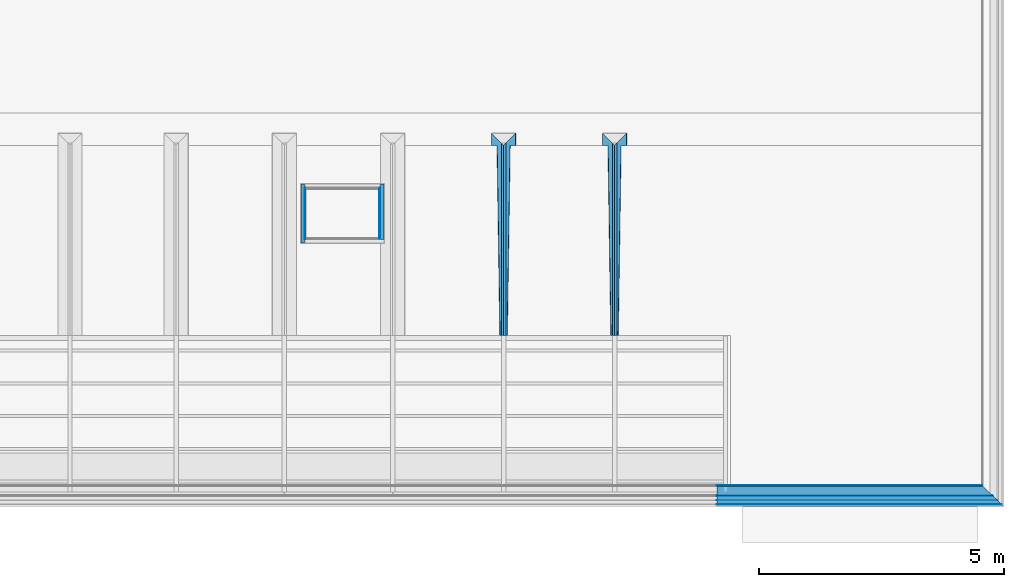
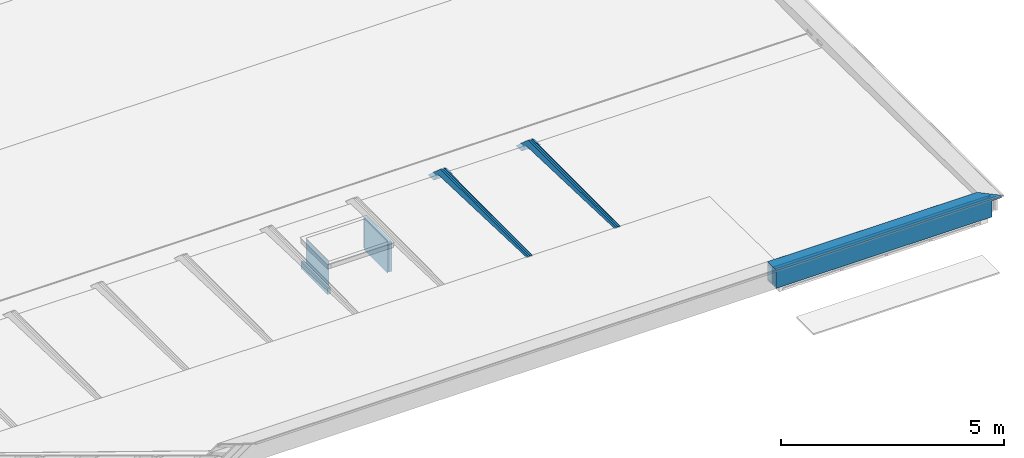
# One storey, part 11 of 16: 25 building element parts, 7 elements without a shape of their own.
"""IFC2X3 building model written with IfcOpenShell, lengths in millimetres."""

from ifc_helpers import new_model, entity, si_unit, converted_unit, derived_unit, money_unit, direction, frame, origin_with_axes, place, context, subcontext, project, spatial, faceted_brep, material, type_object, element, aggregate, save


model = new_model("IFC2X3")

# Units and contexts
model_context = context("Model", 3, precision=0.01, world=origin_with_axes(), true_north=direction((0.0, 1.0)))
body_context = subcontext(model_context, "Body", "Model", "MODEL_VIEW")
ifc_project = project(units=[si_unit("LENGTHUNIT", "METRE", prefix="MILLI"), si_unit("AREAUNIT", "SQUARE_METRE"), si_unit("VOLUMEUNIT", "CUBIC_METRE"), converted_unit("PLANEANGLEUNIT", "DEGREE", entity("IfcPlaneAngleMeasure", 0.0174532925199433), si_unit("PLANEANGLEUNIT", "RADIAN"), dimensions=[0, 0, 0, 0, 0, 0, 0]), money_unit("EUR"), converted_unit("TIMEUNIT", "Year", entity("IfcTimeMeasure", 31556926.0), si_unit("TIMEUNIT", "SECOND"), dimensions=[0, 0, 1, 0, 0, 0, 0]), si_unit("MASSUNIT", "GRAM", prefix="KILO"), si_unit("THERMODYNAMICTEMPERATUREUNIT", "DEGREE_CELSIUS"), si_unit("LUMINOUSINTENSITYUNIT", "LUMEN"), si_unit("ENERGYUNIT", "JOULE", prefix="MEGA"), derived_unit("THERMALCONDUCTANCEUNIT", [(si_unit("POWERUNIT", "WATT"), 1), (si_unit("LENGTHUNIT", "METRE"), -1), (si_unit("THERMODYNAMICTEMPERATUREUNIT", "KELVIN"), -1)]), derived_unit("SPECIFICHEATCAPACITYUNIT", [(si_unit("ENERGYUNIT", "JOULE"), 1), (si_unit("MASSUNIT", "GRAM", prefix="KILO"), -1), (si_unit("THERMODYNAMICTEMPERATUREUNIT", "KELVIN"), -1)]), derived_unit("MASSDENSITYUNIT", [(si_unit("MASSUNIT", "GRAM", prefix="KILO"), 1), (si_unit("VOLUMEUNIT", "CUBIC_METRE"), -1)])], contexts=[model_context])

# Site, building, storey
site_placement = place(None, origin_with_axes())
site = spatial("IfcSite", under=ifc_project, at=site_placement, Name="Site", CompositionType="ELEMENT")
building_placement = place(site_placement, origin_with_axes())
building = spatial("IfcBuilding", under=site, at=building_placement, Name="Naam gebouw", CompositionType="ELEMENT")
storey_placement = place(building_placement, frame((0.0, 0.0, 7820.0), z_axis=(0.0, 0.0, 1.0), x_axis=(1.0, 0.0, 0.0)))
storey = spatial("IfcBuildingStorey", under=building, at=storey_placement, Name="2e dakoverzicht", CompositionType="ELEMENT", Elevation=7820.0)

# Beam, building element parts
beam_type_1 = type_object("IfcBeamType", Name="47 Isoniq M stucwerk 428 x 509", PredefinedType="BEAM")
beam_1_placement = place(storey_placement, frame((29899.99999999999, 3600.000000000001, 480.0000000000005), z_axis=(0.0, 0.0, 1.0), x_axis=(0.0, 1.0, 0.0)))
beam_1 = element("IfcBeam", 1, at=beam_1_placement, inside=storey, type_object=beam_type_1, Name="28_Balk-x", ObjectType="BEAM")
ifc_material_1 = material(Name="STO pleisterlaag")
building_element_part_1_placement = place(beam_1_placement, origin_with_axes())
building_element_part_1 = element("IfcBuildingElementPart", 2, at=building_element_part_1_placement, material=ifc_material_1, Name="STO pleisterlaag", context=body_context, shape_type="Brep", body=[
    faceted_brep([(-176.0000000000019, -248.7617982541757, -39.99999999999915), (-176.0000000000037, -248.7617982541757, 3.000000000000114), (-176.0000000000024, 5576.000960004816, 3.000000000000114), (-176.0000000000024, 5576.000960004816, -480.0000000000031), (-176.0000000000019, 0.0, -480.0000000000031), (-176.0000000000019, 0.0, -39.99999999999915), (-172.999998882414, -245.6567452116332, -39.99999999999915), (-172.999998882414, -245.6567452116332, 3.000000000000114), (-172.9999988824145, 5576.000960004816, 3.000000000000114), (-172.9999988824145, 5576.000960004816, -480.0000000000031), (-172.999996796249, 0.0, -480.0000000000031), (-172.999996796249, 0.0, -39.99999999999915), (-172.999996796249, -231.9999967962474, -39.99999999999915)], [[[0, 1, 2, 3, 4, 5]], [[0, 6, 7, 1]], [[2, 1, 7, 8]], [[8, 9, 3, 2]], [[10, 4, 3, 9]], [[10, 11, 5, 4]], [[6, 0, 5, 11, 12]], [[6, 12, 11, 10, 9, 8, 7]]]),
])
ifc_material_2 = material(Name="STO lijmlaag")
building_element_part_2_placement = place(beam_1_placement, origin_with_axes())
building_element_part_2 = element("IfcBuildingElementPart", 3, at=building_element_part_2_placement, material=ifc_material_2, Name="STO lijmlaag", context=body_context, shape_type="Brep", body=[
    faceted_brep([(-87.99999850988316, 0.0, -480.0000000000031), (-87.99999850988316, 0.0, -39.99999999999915), (-87.99999850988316, -157.680277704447, -39.99999999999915), (-88.00000138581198, -157.680277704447, -6.999998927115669), (-88.00000138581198, 5576.000960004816, -6.999998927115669), (-88.00000138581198, 5576.000960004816, -480.0000000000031), (-83.99999776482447, 0.0, -480.0000000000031), (-83.99999776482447, 0.0, -39.99999999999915), (-83.99999776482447, -153.5402119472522, -39.99999999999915), (-84.00000469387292, -153.5402119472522, -6.999998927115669), (-84.00000469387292, 5576.000960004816, -6.999998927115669), (-84.00000469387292, 5576.000960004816, -480.0000000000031)], [[[0, 1, 2, 3, 4, 5]], [[6, 7, 1, 0]], [[8, 2, 1, 7]], [[2, 8, 9, 3]], [[9, 10, 4, 3]], [[11, 5, 4, 10]], [[6, 0, 5, 11]], [[7, 6, 11, 10, 9, 8]]]),
])
ifc_material_3 = material(Name="STO weefsellaag")
building_element_part_3_placement = place(beam_1_placement, origin_with_axes())
building_element_part_3 = element("IfcBuildingElementPart", 4, at=building_element_part_3_placement, material=ifc_material_3, Name="STO weefsellaag", context=body_context, shape_type="Brep", body=[
    faceted_brep([(-173.0000000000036, -245.6567463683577, -39.99999999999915), (-173.0000000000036, -245.6567463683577, 3.000000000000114), (-173.0000000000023, 5576.000960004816, 3.000000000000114), (-173.0000000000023, 5576.000960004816, -480.0000000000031), (-172.9999985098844, 0.0, -480.0000000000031), (-172.9999985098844, 0.0, -39.99999999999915), (-172.9999985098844, -231.9999985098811, -39.99999999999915), (-168.0000005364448, -240.481660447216, -39.99999999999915), (-168.0000005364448, -240.481660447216, 3.000000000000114), (-168.0000005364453, 5576.000960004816, 3.000000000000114), (-168.0000005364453, 5576.000960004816, -480.0000000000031), (-167.9999997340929, 0.0, -480.0000000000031), (-167.9999997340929, 0.0, -39.99999999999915), (-167.9999997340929, -226.9999962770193, -39.99999999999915)], [[[0, 1, 2, 3, 4, 5, 6]], [[0, 7, 8, 1]], [[2, 1, 8, 9]], [[9, 10, 3, 2]], [[11, 4, 3, 10]], [[11, 12, 5, 4]], [[7, 0, 6, 5, 12, 13]], [[7, 13, 12, 11, 10, 9, 8]]]),
])
ifc_material_4 = material(Name="Cementgebonden plaatmateriaal")
building_element_part_4_placement = place(beam_1_placement, origin_with_axes())
building_element_part_4 = element("IfcBuildingElementPart", 5, at=building_element_part_4_placement, material=ifc_material_4, Name="Cementgebonden plaatmateriaal", context=body_context, shape_type="Brep", body=[
    faceted_brep([(0.0, -66.59875428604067, -480.0000000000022), (0.0, 5576.000960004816, -480.0000000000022), (14.99999967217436, 5576.000960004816, -480.0000000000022), (14.99999967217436, -51.07349519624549, -480.0000000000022), (0.0, -66.59875428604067, -6.999999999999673), (0.0, 5576.000960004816, -6.999999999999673), (14.99999967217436, 5576.000960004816, -6.999999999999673), (14.99999967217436, 5576.000960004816, -9.999998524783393), (14.99999967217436, -51.07349519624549, -9.999998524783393), (14.99999967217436, -51.07349519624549, -6.999999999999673)], [[[0, 1, 2, 3]], [[4, 5, 1, 0]], [[2, 1, 5, 6, 7]], [[3, 2, 7, 8]], [[4, 0, 3, 8, 9]], [[9, 6, 5, 4]], [[8, 7, 6, 9]]]),
])
building_element_part_5_placement = place(beam_1_placement, origin_with_axes())
building_element_part_5 = element("IfcBuildingElementPart", 6, at=building_element_part_5_placement, material=ifc_material_2, Name="STO lijmlaag", context=body_context, shape_type="Brep", body=[
    faceted_brep([(-3.999999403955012, 0.0, -480.0000000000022), (-3.999999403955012, 0.0, -39.99999999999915), (-3.999999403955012, -70.73882041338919, -39.99999999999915), (-3.999997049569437, -70.73882041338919, -6.999999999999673), (-3.999997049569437, 5576.000960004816, -6.999999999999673), (-3.999997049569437, 5576.000960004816, -480.0000000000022), (-8.940723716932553e-07, 0.0, -480.0000000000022), (-8.940723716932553e-07, 0.0, -39.99999999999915), (-8.940723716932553e-07, -66.59875326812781, -39.99999999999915), (9.834755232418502e-07, -66.59875326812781, -6.999999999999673), (9.834750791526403e-07, 5576.000960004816, -6.999999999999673), (9.834755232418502e-07, 5576.000960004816, -480.0000000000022)], [[[0, 1, 2, 3, 4, 5]], [[6, 7, 1, 0]], [[8, 2, 1, 7]], [[2, 8, 9, 3]], [[9, 10, 4, 3]], [[5, 4, 10, 11]], [[6, 0, 5, 11]], [[7, 6, 11, 10, 9, 8]]]),
])
ifc_material_5 = material(Name="47 waterdichte laag - bitumen")
building_element_part_6_placement = place(beam_1_placement, origin_with_axes())
building_element_part_6 = element("IfcBuildingElementPart", 7, at=building_element_part_6_placement, material=ifc_material_5, Name="47 waterdichte laag - bitumen", context=body_context, shape_type="Brep", body=[
    faceted_brep([(216.9999972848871, 157.9999959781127, 14.40779045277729), (-188.1351611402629, -261.3218999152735, 28.48044654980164), (-210.657850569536, -284.6332730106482, 28.48044654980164), (-210.7348536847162, -284.7129725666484, 26.26365007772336), (214.0000036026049, 154.8949506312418, 11.51018216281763), (216.9999972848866, 5576.000960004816, 14.40779045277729), (-188.1351611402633, 5576.000960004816, 28.48044654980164), (-210.6578505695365, 5576.000960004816, 28.48044654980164), (-210.7348536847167, 5576.000960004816, 26.26365007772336), (214.0000036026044, 5576.000960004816, 11.51018216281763)], [[[0, 1, 2, 3, 4]], [[5, 6, 1, 0]], [[6, 7, 2, 1]], [[3, 2, 7, 8]], [[4, 3, 8, 9]], [[0, 4, 9, 5]], [[8, 7, 6, 5, 9]]]),
])
building_element_part_7_placement = place(beam_1_placement, origin_with_axes())
building_element_part_7 = element("IfcBuildingElementPart", 8, at=building_element_part_7_placement, material=ifc_material_5, Name="47 waterdichte laag - bitumen", context=body_context, shape_type="Brep", body=[
    faceted_brep([(213.9999999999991, 5576.000960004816, 11.51018437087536), (213.9999988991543, 5576.000960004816, -10.00000080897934), (213.9999988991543, 154.8949457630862, -10.00000080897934), (213.9999999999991, 154.8949469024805, 11.51018437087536), (216.9999999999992, 5576.000960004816, 14.4077885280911), (217.0000000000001, 5576.000960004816, -479.9999999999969), (214.0, 5576.000960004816, -479.9999999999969), (214.0, 154.8949469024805, -479.9999999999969), (217.0000000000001, 157.9999987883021, -479.9999999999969), (216.9999999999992, 157.9999987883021, 14.4077885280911)], [[[0, 1, 2, 3]], [[0, 4, 5, 6, 1]], [[1, 6, 7, 2]], [[3, 2, 7, 8, 9]], [[4, 0, 3, 9]], [[5, 4, 9, 8]], [[6, 5, 8, 7]]]),
])
ifc_material_6 = material(Name="Isolatie - STO EPS")
building_element_part_8_placement = place(beam_1_placement, origin_with_axes())
building_element_part_8 = element("IfcBuildingElementPart", 9, at=building_element_part_8_placement, material=ifc_material_6, Name="Isolatie - STO EPS", context=body_context, shape_type="Brep", body=[
    faceted_brep([(-168.0000000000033, -240.4816598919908, -39.99999999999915), (-168.0000021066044, -226.9999986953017, -39.99999999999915), (-167.9999995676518, 0.0, -39.99999999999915), (-87.9999988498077, 0.0, -39.99999999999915), (-87.9999988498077, -157.6802776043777, -39.99999999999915), (-168.0000000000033, -240.4816598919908, 3.000000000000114), (-168.0000000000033, 5576.000960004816, 3.000000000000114), (-168.0000000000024, 5576.000960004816, -480.0000000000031), (-167.9999995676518, 0.0, -480.0000000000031), (-87.9999988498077, 0.0, -480.0000000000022), (-88.00000000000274, 5576.000960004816, -480.0000000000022), (-88.00000138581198, 5576.000960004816, -6.999998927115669), (-88.00000138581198, -157.680277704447, -6.999998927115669), (-88.00000000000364, -157.6802762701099, 3.000000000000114), (-88.00000000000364, 5576.000960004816, 3.000000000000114)], [[[0, 1, 2, 3, 4]], [[2, 1, 0, 5, 6, 7, 8]], [[9, 3, 2, 8]], [[3, 9, 10, 11, 12, 4]], [[0, 4, 12, 13, 5]], [[13, 14, 6, 5]], [[10, 7, 6, 14, 11]], [[9, 8, 7, 10]], [[12, 11, 14, 13]]]),
])
ifc_material_7 = material(Name="Hout C")
building_element_part_9_placement = place(beam_1_placement, origin_with_axes())
building_element_part_9 = element("IfcBuildingElementPart", 10, at=building_element_part_9_placement, material=ifc_material_7, Name="Hout C", context=body_context, shape_type="Brep", body=[
    faceted_brep([(15.00000000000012, 5576.000960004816, -9.999999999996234), (15.00000000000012, 5576.000960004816, -47.99999999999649), (15.00000000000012, -51.07349485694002, -47.99999999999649), (15.00000000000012, -51.07349485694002, -9.999999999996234), (198.9999999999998, 5576.000960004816, -9.999999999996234), (198.9999999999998, 5576.000960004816, -47.99999999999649), (198.9999999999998, 139.3696874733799, -47.99999999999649), (198.9999999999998, 139.3696874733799, -9.999999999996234)], [[[0, 1, 2, 3]], [[0, 4, 5, 1]], [[1, 5, 6, 2]], [[3, 2, 6, 7]], [[4, 0, 3, 7]], [[5, 4, 7, 6]]]),
])
building_element_part_10_placement = place(beam_1_placement, origin_with_axes())
building_element_part_10 = element("IfcBuildingElementPart", 11, at=building_element_part_10_placement, material=ifc_material_6, Name="Isolatie - STO EPS", context=body_context, shape_type="Brep", body=[
    faceted_brep([(-84.00000000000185, 0.0, -480.0000000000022), (-84.00000000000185, 0.0, -39.99999999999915), (-84.00000000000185, -153.5402070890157, -39.99999999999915), (-84.00000000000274, -153.5402070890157, -6.999999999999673), (-84.00000000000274, 5576.000960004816, -6.999999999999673), (-84.00000000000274, 5576.000960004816, -480.0000000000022), (-4.00000000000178, 0.0, -480.0000000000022), (-4.00000000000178, 0.0, -39.99999999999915), (-3.999999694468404, -70.73882346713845, -39.99999999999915), (-4.000000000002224, -70.73882346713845, -6.999999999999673), (-4.000000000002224, 5576.000960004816, -6.999999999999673), (-4.000000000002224, 5576.000960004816, -480.0000000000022)], [[[0, 1, 2, 3, 4, 5]], [[6, 7, 1, 0]], [[8, 2, 1, 7]], [[2, 8, 9, 3]], [[9, 10, 4, 3]], [[10, 11, 5, 4]], [[6, 0, 5, 11]], [[7, 6, 11, 10, 9, 8]]]),
])
building_element_part_11_placement = place(beam_1_placement, origin_with_axes())
building_element_part_11 = element("IfcBuildingElementPart", 12, at=building_element_part_11_placement, material=ifc_material_7, Name="Hout C", context=body_context, shape_type="Brep", body=[
    faceted_brep([(15.00000000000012, 5576.000960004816, -441.9999999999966), (15.00000000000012, 5576.000960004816, -479.9999999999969), (15.00000000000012, -51.07349485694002, -479.9999999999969), (15.00000000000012, -51.07349485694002, -441.9999999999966), (198.9999999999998, 5576.000960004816, -441.9999999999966), (198.9999999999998, 5576.000960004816, -479.9999999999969), (198.9999999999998, 139.3696874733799, -479.9999999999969), (198.9999999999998, 139.3696874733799, -441.9999999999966)], [[[0, 1, 2, 3]], [[0, 4, 5, 1]], [[1, 5, 6, 2]], [[3, 2, 6, 7]], [[4, 0, 3, 7]], [[5, 4, 7, 6]]]),
])
ifc_material_8 = material(Name="Isolatie - Glaswol hard")
building_element_part_12_placement = place(beam_1_placement, origin_with_axes())
building_element_part_12 = element("IfcBuildingElementPart", 13, at=building_element_part_12_placement, material=ifc_material_8, Name="Isolatie - Glaswol hard", context=body_context, shape_type="Brep", body=[
    faceted_brep([(14.99999999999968, 5576.000960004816, -48.00000065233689), (15.00000000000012, 5576.000960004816, -441.9999992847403), (15.00000000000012, -51.07349485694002, -441.9999992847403), (15.00000000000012, -51.07349485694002, -48.00000065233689), (199.0000011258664, 5576.000960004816, -48.00000065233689), (199.0000011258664, 5576.000960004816, -441.9999992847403), (199.0000011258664, 139.3696886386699, -441.9999992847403), (199.0000011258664, 139.3696886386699, -48.00000065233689)], [[[0, 1, 2, 3]], [[0, 4, 5, 1]], [[1, 5, 6, 2]], [[3, 2, 6, 7]], [[4, 0, 3, 7]], [[5, 4, 7, 6]]]),
])
aggregate(beam_1, [building_element_part_1, building_element_part_2, building_element_part_3, building_element_part_4, building_element_part_5, building_element_part_6, building_element_part_7, building_element_part_8, building_element_part_9, building_element_part_10, building_element_part_11, building_element_part_12])

beam_type_2 = type_object("IfcBeamType", Name="47 IPE inpakken 250 x 203", PredefinedType="BEAM")
beam_2_placement = place(storey_placement, frame((22278.83250152, 6879.999999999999, 269.9999999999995), z_axis=(0.0, 0.0, 1.0), x_axis=(1.0, 0.0, 0.0)))
beam_2 = element("IfcBeam", 14, at=beam_2_placement, inside=storey, type_object=beam_type_2, Name="_Regenwaterafvoer-x", ObjectType="BEAM")
building_element_part_13_placement = place(beam_2_placement, origin_with_axes())
building_element_part_13 = element("IfcBuildingElementPart", 15, at=building_element_part_13_placement, material=ifc_material_5, Name="47 waterdichte laag - bitumen", context=body_context, shape_type="Brep", body=[
    faceted_brep([(33.04263990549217, 5.399650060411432e-05, 21.20000000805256), (91.24264203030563, 3880.000055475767, -37.00000001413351), (204.2426399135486, 3880.000055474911, -150.0000000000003), (204.2426399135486, 4134.242695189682, -150.0000000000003), (1.242640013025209, 3931.242695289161, 52.99999990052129), (1.242640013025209, 0.0, 52.99999990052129), (28.80000052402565, 5.399634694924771e-05, 21.20000000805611), (87.00000027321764, 3880.000055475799, -37.00000001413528), (199.9999981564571, 3880.000055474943, -150.0000000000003), (199.9999981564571, 4130.000053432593, -150.0000000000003), (-45.50000000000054, 3884.500055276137, 50.00000164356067), (-45.50000000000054, 3884.500055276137, 52.99999990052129), (2.34354757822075e-07, 3930.000055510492, 50.00000164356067), (-45.50000000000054, 0.0, 52.99999990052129), (-45.50000000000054, 0.0, 50.00000164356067), (2.34354757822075e-07, 0.0, 50.00000164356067)], [[[0, 1, 2, 3, 4, 5]], [[1, 0, 6, 7]], [[8, 2, 1, 7]], [[2, 8, 9, 3]], [[10, 11, 4, 3, 9, 12]], [[5, 4, 11, 13]], [[6, 0, 5, 13, 14, 15]], [[7, 6, 15, 12, 9, 8]], [[13, 11, 10, 14]], [[14, 10, 12, 15]]]),
])
ifc_material_9 = material(Name="Isolatie - Kunststof hard")
building_element_part_14_placement = place(beam_2_placement, origin_with_axes())
building_element_part_14 = element("IfcBuildingElementPart", 16, at=building_element_part_14_placement, material=ifc_material_9, Name="Isolatie - Kunststof hard", context=body_context, shape_type="Brep", body=[
    faceted_brep([(28.79999999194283, 5.399634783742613e-05, 21.20000000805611), (87.00000001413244, 3880.000055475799, -37.00000001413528), (199.9999999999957, 3880.000055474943, -150.0000000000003), (199.9999999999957, 4130.000055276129, -150.0000000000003), (0.0, 3930.000055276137, 50.00000000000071), (0.0, 0.0, 50.00000000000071), (-45.50000000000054, 5.399366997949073e-05, 21.20000000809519), (-45.50000000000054, 1413.333387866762, 0.0), (0.0, 1413.333387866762, 0.0), (0.0, 3880.000055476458, -37.00000001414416), (0.0, 3880.000055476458, -150.0000000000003), (0.0, 3930.000055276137, -150.0000000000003), (0.0, 3930.000055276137, 0.0), (-45.50000000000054, 3884.500055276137, 0.0), (-45.50000000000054, 3884.500055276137, 50.00000000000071), (-45.50000000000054, 0.0, 50.00000000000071)], [[[0, 1, 2, 3, 4, 5]], [[1, 0, 6, 7, 8, 9]], [[10, 2, 1, 9]], [[2, 10, 11, 3]], [[4, 3, 11, 12, 13, 14]], [[5, 4, 14, 15]], [[6, 0, 5, 15]], [[7, 6, 15, 14, 13]], [[8, 7, 13, 12]], [[9, 8, 12, 11, 10]]]),
])
aggregate(beam_2, [building_element_part_13, building_element_part_14])

beam_3_placement = place(storey_placement, frame((22187.83250152, 10810.00005527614, 269.9999999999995), z_axis=(0.0, 0.0, 1.0), x_axis=(-1.0, 0.0, 0.0)))
beam_3 = element("IfcBeam", 17, at=beam_3_placement, inside=storey, type_object=beam_type_2, Name="_Regenwaterafvoer-x", ObjectType="BEAM")
building_element_part_15_placement = place(beam_3_placement, origin_with_axes())
building_element_part_15 = element("IfcBuildingElementPart", 18, at=building_element_part_15_placement, material=ifc_material_5, Name="47 waterdichte laag - bitumen", context=body_context, shape_type="Brep", body=[
    faceted_brep([(33.0426399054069, 3930.000001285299, 21.20000000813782), (28.80000052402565, 3930.000001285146, 21.20000000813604), (2.34354757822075e-07, 3930.000055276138, 50.00000164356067), (-45.50000000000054, 3930.000055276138, 50.00000164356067), (-45.50000000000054, 3930.000055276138, 52.99999990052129), (1.242640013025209, 3930.000055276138, 52.99999990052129), (87.0000002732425, 49.99999979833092, -37.00000001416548), (91.24264203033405, 49.99999979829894, -37.00000001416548), (199.9999981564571, 49.99999979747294, -150.0000000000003), (199.9999981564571, -199.9999981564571, -150.0000000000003), (2.34354757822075e-07, -2.34354757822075e-07, 50.00000164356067), (-45.50000000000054, 45.50000000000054, 50.00000164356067), (-45.50000000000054, 45.50000000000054, 52.99999990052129), (1.242640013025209, -1.242640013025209, 52.99999990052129), (204.2426399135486, -204.2426399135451, -150.0000000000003), (204.2426399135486, 49.99999979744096, -150.0000000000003)], [[[0, 1, 2, 3, 4, 5]], [[6, 1, 0, 7]], [[6, 8, 9, 10, 2, 1]], [[11, 3, 2, 10]], [[12, 4, 3, 11]], [[13, 5, 4, 12]], [[7, 0, 5, 13, 14, 15]], [[8, 6, 7, 15]], [[8, 15, 14, 9]], [[13, 12, 11, 10, 9, 14]]]),
])
building_element_part_16_placement = place(beam_3_placement, origin_with_axes())
building_element_part_16 = element("IfcBuildingElementPart", 19, at=building_element_part_16_placement, material=ifc_material_9, Name="Isolatie - Kunststof hard", context=body_context, shape_type="Brep", body=[
    faceted_brep([(-45.50000000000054, 3930.000001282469, 21.20000000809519), (-45.50000000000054, 2516.666667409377, 0.0), (-45.50000000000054, 45.50000000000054, 0.0), (-45.50000000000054, 45.50000000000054, 50.00000000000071), (-45.50000000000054, 3930.000055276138, 50.00000000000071), (0.0, 2516.666667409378, 0.0), (28.79999999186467, 3930.000001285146, 21.20000000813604), (87.00000001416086, 49.99999979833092, -37.00000001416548), (0.0, 49.99999979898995, -37.00000001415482), (0.0, 0.0, 0.0), (0.0, 0.0, -150.0000000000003), (199.9999999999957, -199.9999999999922, -150.0000000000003), (0.0, 0.0, 50.00000000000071), (0.0, 3930.000055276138, 50.00000000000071), (199.9999999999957, 49.99999979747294, -150.0000000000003), (0.0, 49.99999979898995, -150.0000000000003)], [[[0, 1, 2, 3, 4]], [[5, 1, 0, 6, 7, 8]], [[1, 5, 9, 2]], [[10, 11, 12, 3, 2, 9]], [[12, 13, 4, 3]], [[6, 0, 4, 13]], [[7, 6, 13, 12, 11, 14]], [[15, 8, 7, 14]], [[8, 15, 10, 9, 5]], [[15, 14, 11, 10]]]),
])
aggregate(beam_3, [building_element_part_15, building_element_part_16])

beam_4_placement = place(storey_placement, frame((20012.1659630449, 6879.999999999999, 269.9999999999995), z_axis=(0.0, 0.0, 1.0), x_axis=(1.0, 0.0, 0.0)))
beam_4 = element("IfcBeam", 20, at=beam_4_placement, inside=storey, type_object=beam_type_2, Name="_Regenwaterafvoer-x", ObjectType="BEAM")
building_element_part_17_placement = place(beam_4_placement, origin_with_axes())
building_element_part_17 = element("IfcBuildingElementPart", 21, at=building_element_part_17_placement, material=ifc_material_5, Name="47 waterdichte laag - bitumen", context=body_context, shape_type="Brep", body=[
    faceted_brep([(33.04263990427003, 5.391482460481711e-05, 21.20000000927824), (91.24264203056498, 3880.000055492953, -37.00000001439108), (204.2426399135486, 3880.000055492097, -150.0000000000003), (204.2426399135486, 4134.242695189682, -150.0000000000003), (1.242640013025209, 3931.242695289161, 52.99999990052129), (1.242640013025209, 0.0, 52.99999990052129), (28.80000052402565, 5.391467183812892e-05, 21.20000000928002), (87.00000027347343, 3880.000055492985, -37.00000001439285), (199.9999981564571, 3880.000055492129, -150.0000000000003), (199.9999981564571, 4130.000053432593, -150.0000000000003), (-45.50000000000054, 3884.500055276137, 50.00000164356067), (-45.50000000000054, 3884.500055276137, 52.99999990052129), (2.34354757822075e-07, 3930.000055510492, 50.00000164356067), (-45.50000000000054, 0.0, 52.99999990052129), (-45.50000000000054, 0.0, 50.00000164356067), (2.34354757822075e-07, 0.0, 50.00000164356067)], [[[0, 1, 2, 3, 4, 5]], [[1, 0, 6, 7]], [[8, 2, 1, 7]], [[2, 8, 9, 3]], [[10, 11, 4, 3, 9, 12]], [[5, 4, 11, 13]], [[6, 0, 5, 13, 14, 15]], [[7, 6, 15, 12, 9, 8]], [[13, 11, 10, 14]], [[14, 10, 12, 15]]]),
])
building_element_part_18_placement = place(beam_4_placement, origin_with_axes())
building_element_part_18 = element("IfcBuildingElementPart", 22, at=building_element_part_18_placement, material=ifc_material_9, Name="Isolatie - Kunststof hard", context=body_context, shape_type="Brep", body=[
    faceted_brep([(28.79999999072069, 5.391467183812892e-05, 21.20000000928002), (87.00000001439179, 3880.000055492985, -37.00000001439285), (199.9999999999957, 3880.000055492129, -150.0000000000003), (199.9999999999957, 4130.000055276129, -150.0000000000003), (0.0, 3930.000055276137, 50.00000000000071), (0.0, 0.0, 50.00000000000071), (-45.50000000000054, 5.391199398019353e-05, 21.20000000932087), (-45.50000000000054, 1413.333387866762, 0.0), (0.0, 1413.333387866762, 0.0), (0.0, 3880.000055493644, -37.00000001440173), (0.0, 3880.000055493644, -150.0000000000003), (0.0, 3930.000055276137, -150.0000000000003), (0.0, 3930.000055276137, 0.0), (-45.50000000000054, 3884.500055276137, 0.0), (-45.50000000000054, 3884.500055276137, 50.00000000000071), (-45.50000000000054, 0.0, 50.00000000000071)], [[[0, 1, 2, 3, 4, 5]], [[1, 0, 6, 7, 8, 9]], [[10, 2, 1, 9]], [[2, 10, 11, 3]], [[4, 3, 11, 12, 13, 14]], [[5, 4, 14, 15]], [[6, 0, 5, 15]], [[7, 6, 15, 14, 13]], [[8, 7, 13, 12]], [[9, 8, 12, 11, 10]]]),
])
aggregate(beam_4, [building_element_part_17, building_element_part_18])

beam_5_placement = place(storey_placement, frame((19921.1659630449, 10810.00005527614, 269.9999999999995), z_axis=(0.0, 0.0, 1.0), x_axis=(-1.0, 0.0, 0.0)))
beam_5 = element("IfcBeam", 23, at=beam_5_placement, inside=storey, type_object=beam_type_2, Name="_Regenwaterafvoer-x", ObjectType="BEAM")
building_element_part_19_placement = place(beam_5_placement, origin_with_axes())
building_element_part_19 = element("IfcBuildingElementPart", 24, at=building_element_part_19_placement, material=ifc_material_5, Name="47 waterdichte laag - bitumen", context=body_context, shape_type="Brep", body=[
    faceted_brep([(33.04263990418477, 3930.000001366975, 21.20000000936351), (28.80000052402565, 3930.000001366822, 21.20000000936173), (2.34354757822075e-07, 3930.00005527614, 50.00000164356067), (-45.50000000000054, 3930.00005527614, 50.00000164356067), (-45.50000000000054, 3930.00005527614, 52.99999990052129), (1.242640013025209, 3930.00005527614, 52.99999990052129), (87.00000027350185, 49.99999978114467, -37.00000001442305), (91.24264203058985, 49.99999978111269, -37.00000001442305), (199.9999981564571, 49.99999978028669, -150.0000000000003), (199.9999981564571, -199.9999981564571, -150.0000000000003), (2.34354757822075e-07, -2.34354757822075e-07, 50.00000164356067), (-45.50000000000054, 45.50000000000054, 50.00000164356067), (-45.50000000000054, 45.50000000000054, 52.99999990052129), (1.242640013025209, -1.242640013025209, 52.99999990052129), (204.2426399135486, -204.2426399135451, -150.0000000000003), (204.2426399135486, 49.99999978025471, -150.0000000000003)], [[[0, 1, 2, 3, 4, 5]], [[6, 1, 0, 7]], [[6, 8, 9, 10, 2, 1]], [[11, 3, 2, 10]], [[12, 4, 3, 11]], [[13, 5, 4, 12]], [[7, 0, 5, 13, 14, 15]], [[8, 6, 7, 15]], [[8, 15, 14, 9]], [[13, 12, 11, 10, 9, 14]]]),
])
building_element_part_20_placement = place(beam_5_placement, origin_with_axes())
building_element_part_20 = element("IfcBuildingElementPart", 25, at=building_element_part_20_placement, material=ifc_material_9, Name="Isolatie - Kunststof hard", context=body_context, shape_type="Brep", body=[
    faceted_brep([(-45.50000000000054, 3930.000001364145, 21.20000000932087), (-45.50000000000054, 2516.666667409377, 0.0), (-45.50000000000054, 45.50000000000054, 0.0), (-45.50000000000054, 45.50000000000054, 50.00000000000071), (-45.50000000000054, 3930.00005527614, 50.00000000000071), (0.0, 2516.666667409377, 0.0), (28.79999999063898, 3930.000001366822, 21.20000000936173), (87.00000001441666, 49.99999978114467, -37.00000001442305), (0.0, 49.99999978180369, -37.00000001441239), (0.0, 0.0, 0.0), (0.0, 0.0, -150.0000000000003), (199.9999999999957, -199.9999999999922, -150.0000000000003), (0.0, 0.0, 50.00000000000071), (0.0, 3930.00005527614, 50.00000000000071), (199.9999999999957, 49.99999978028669, -150.0000000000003), (0.0, 49.99999978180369, -150.0000000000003)], [[[0, 1, 2, 3, 4]], [[5, 1, 0, 6, 7, 8]], [[1, 5, 9, 2]], [[10, 11, 12, 3, 2, 9]], [[12, 13, 4, 3]], [[6, 0, 4, 13]], [[7, 6, 13, 12, 11, 14]], [[15, 8, 7, 14]], [[8, 15, 10, 9, 5]], [[15, 14, 11, 10]]]),
])
aggregate(beam_5, [building_element_part_19, building_element_part_20])

# Proxy, building element parts
building_element_proxy_type = type_object("IfcBuildingElementProxyType", Name="22 Metal stud 100 voorzetwand 100", PredefinedType="NOTDEFINED")
proxy_1_placement = place(storey_placement, frame((17424.99903999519, 8870.000318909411, -460.0000000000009), z_axis=(0.0, 0.0, 1.0), x_axis=(0.0, 1.0, 0.0)))
proxy_1 = element("IfcBuildingElementProxy", 26, at=proxy_1_placement, inside=storey, type_object=building_element_proxy_type, Name="_Wand-x")
ifc_material_10 = material(Name="Gipsplaat")
building_element_part_21_placement = place(proxy_1_placement, origin_with_axes())
building_element_part_21 = element("IfcBuildingElementPart", 27, at=building_element_part_21_placement, material=ifc_material_10, Name="Gipsplaat", context=body_context, shape_type="Brep", body=[
    faceted_brep([(1012.499999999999, 0.0, 840.0000000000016), (0.0, 0.0, 840.0000000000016), (0.0, -12.49999999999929, 840.0000000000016), (1012.499999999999, -12.49999999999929, 840.0000000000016), (1012.499999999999, 0.0, 0.0), (0.0, 0.0, 0.0), (0.0, -12.49999999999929, 0.0), (1012.499999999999, -12.49999999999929, 0.0)], [[[0, 1, 2, 3]], [[4, 5, 1, 0]], [[2, 1, 5, 6]], [[3, 2, 6, 7]], [[3, 7, 4, 0]], [[7, 6, 5, 4]]]),
])
building_element_part_22_placement = place(proxy_1_placement, origin_with_axes())
building_element_part_22 = element("IfcBuildingElementPart", 28, at=building_element_part_22_placement, material=ifc_material_10, Name="Gipsplaat", context=body_context, shape_type="Brep", body=[
    faceted_brep([(-12.49999999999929, -24.99999999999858, 25.00000000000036), (1025.0, -24.99999999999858, 25.00000000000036), (1025.0, -24.99999999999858, 840.0000000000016), (-12.49999999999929, -24.99999999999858, 840.0000000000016), (1025.0, -12.49999999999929, 25.00000000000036), (-12.49999999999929, -12.49999999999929, 25.00000000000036), (1025.0, -12.49999999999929, 840.0000000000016), (-12.49999999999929, -12.49999999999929, 840.0000000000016)], [[[0, 1, 2, 3]], [[4, 1, 0, 5]], [[1, 4, 6, 2]], [[2, 6, 7, 3]], [[5, 0, 3, 7]], [[4, 5, 7, 6]]]),
])
ifc_material_11 = material(Name="ALG - LICHTE SCHEIDINGSWAND")
building_element_part_23_placement = place(proxy_1_placement, origin_with_axes())
building_element_part_23 = element("IfcBuildingElementPart", 29, at=building_element_part_23_placement, material=ifc_material_11, Name="ALG - LICHTE SCHEIDINGSWAND", context=body_context, shape_type="Brep", body=[
    faceted_brep([(1084.999894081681, -100.0000000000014, 25.00000000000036), (1084.999894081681, -100.0000000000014, 0.0), (1100.0, -100.0000000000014, 0.0), (1100.0, -100.0000000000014, 840.0000000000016), (-25.00000000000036, -100.0000000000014, 840.0000000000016), (-25.00000000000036, -100.0000000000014, 25.00000000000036), (1084.999894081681, -24.99999999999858, 25.00000000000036), (1084.999894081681, -24.99999999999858, 0.0), (1100.0, -24.99999999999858, 0.0), (1100.0, -24.99999999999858, 840.0000000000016), (-25.00000000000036, -24.99999999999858, 840.0000000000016), (-25.00000000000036, -24.99999999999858, 25.00000000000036)], [[[0, 1, 2, 3, 4, 5]], [[1, 0, 6, 7]], [[1, 7, 8, 2]], [[9, 3, 2, 8]], [[3, 9, 10, 4]], [[11, 5, 4, 10]], [[0, 5, 11, 6]], [[6, 11, 10, 9, 8, 7]]]),
])
aggregate(proxy_1, [building_element_part_21, building_element_part_22, building_element_part_23])

proxy_2_placement = place(storey_placement, frame((15924.99903999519, 9870.000424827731, -460.0000000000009), z_axis=(0.0, 0.0, 1.0), x_axis=(0.0, -1.0, 0.0)))
proxy_2 = element("IfcBuildingElementProxy", 30, at=proxy_2_placement, inside=storey, type_object=building_element_proxy_type, Name="_Wand-x")
building_element_part_24_placement = place(proxy_2_placement, origin_with_axes())
building_element_part_24 = element("IfcBuildingElementPart", 31, at=building_element_part_24_placement, material=ifc_material_10, Name="Gipsplaat", context=body_context, shape_type="Brep", body=[
    faceted_brep([(-24.99989408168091, -25.00000000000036, 200.0000000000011), (-24.99989408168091, -12.49999999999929, 200.0000000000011), (-24.99989408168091, -12.49999999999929, 25.00000000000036), (-24.99989408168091, -25.00000000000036, 25.00000000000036), (-14.99955171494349, -12.49999999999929, 200.0000000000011), (1025.00010591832, -25.00000000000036, 200.0000000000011), (1025.00010591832, -12.49999999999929, 200.0000000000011), (1015.000448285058, -12.49999999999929, 200.0000000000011), (1015.000448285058, -15.00000000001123, 200.0000000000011), (-14.99955171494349, -15.00000000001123, 200.0000000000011), (1025.00010591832, -12.49999999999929, 25.00000000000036), (-14.99955171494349, -12.49999999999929, 840.0000000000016), (1015.000448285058, -12.49999999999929, 840.0000000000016), (1025.00010591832, -25.00000000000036, 25.00000000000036), (1015.000448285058, -15.00000000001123, 840.0000000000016), (-14.99955171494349, -15.00000000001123, 840.0000000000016)], [[[0, 1, 2, 3]], [[4, 1, 0, 5, 6, 7, 8, 9]], [[7, 6, 10, 2, 1, 4, 11, 12]], [[13, 3, 2, 10]], [[5, 0, 3, 13]], [[6, 5, 13, 10]], [[7, 12, 14, 8]], [[14, 15, 9, 8]], [[15, 11, 4, 9]], [[14, 12, 11, 15]]]),
])
building_element_part_25_placement = place(proxy_2_placement, origin_with_axes())
building_element_part_25 = element("IfcBuildingElementPart", 32, at=building_element_part_25_placement, material=ifc_material_11, Name="ALG - LICHTE SCHEIDINGSWAND", context=body_context, shape_type="Brep", body=[
    faceted_brep([(-99.9998940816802, -99.99999999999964, 200.0000000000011), (-99.9998940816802, -25.00000000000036, 200.0000000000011), (-99.9998940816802, -25.00000000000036, 0.0), (-99.9998940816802, -99.99999999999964, 0.0), (1100.000105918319, -25.00000000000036, 200.0000000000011), (1100.000105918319, -99.99999999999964, 200.0000000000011), (1100.000105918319, -25.00000000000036, 25.00000000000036), (-84.99978816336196, -25.00000000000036, 25.00000000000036), (-84.99978816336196, -25.00000000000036, 0.0), (-84.99978816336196, -99.99999999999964, 0.0), (-84.99978816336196, -99.99999999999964, 25.00000000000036), (1100.000105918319, -99.99999999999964, 25.00000000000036)], [[[0, 1, 2, 3]], [[4, 1, 0, 5]], [[1, 4, 6, 7, 8, 2]], [[2, 8, 9, 3]], [[5, 0, 3, 9, 10, 11]], [[4, 5, 11, 6]], [[10, 7, 6, 11]], [[9, 8, 7, 10]]]),
])
aggregate(proxy_2, [building_element_part_24, building_element_part_25])

save(model, "model.ifc")
